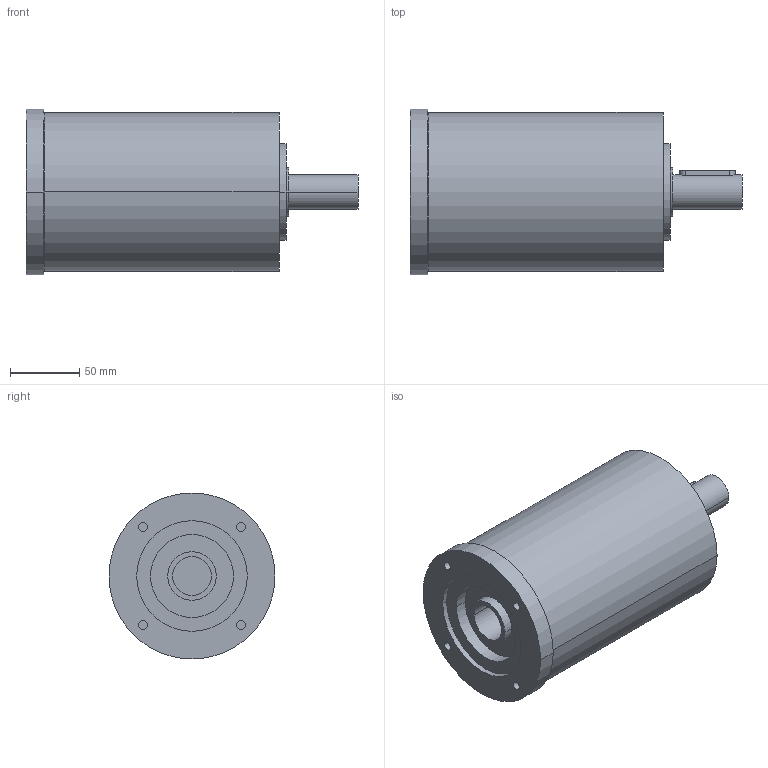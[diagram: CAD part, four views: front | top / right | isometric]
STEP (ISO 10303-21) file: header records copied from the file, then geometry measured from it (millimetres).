
FILE_DESCRIPTION(('CoCreate Modeling STEP Export'),'2;1');
FILE_NAME('GPR125_ig-9-12-16-20-28-35_25_B14_28_P05.stp','2014-08-26T14:11:35',(''),(''),'CoCreate Modeling STEP processor for AP214 (Solid Model)','CoCreate Modeling 16.00C 25-Feb-2009 (C) Parametric Technology GmbH','');
FILE_SCHEMA(('AUTOMOTIVE_DESIGN { 1 0 10303 214 1 1 1 1 }'));
Length unit declared in the file: millimetre
Products named in the file (2): GPR125_ig-9-12-16-20-28-35_25_B14_28_P05
Assembly tree (1 placements, depth 2):
  GPR125_ig-9-12-16-20-28-35_25_B14_28_P05
    GPR125_ig-9-12-16-20-28-35_25_B14_28_P05
Bounding box: 240 x 120 x 120 mm (x, y, z)
Volume: 1877893.5 mm3; surface area: 107509 mm2
Topology: 1 solids, 1 shells, 75 faces, 190 edges, 136 vertices
Faces by surface type: cylinder 46, plane 25, cone 4
Entity records: 1925 total; most frequent: ORIENTED_EDGE 376, CARTESIAN_POINT 357, DIRECTION 250, EDGE_CURVE 188, VERTEX_POINT 136, AXIS2_PLACEMENT_3D 97, EDGE_LOOP 96, FACE_OUTER_BOUND 75
